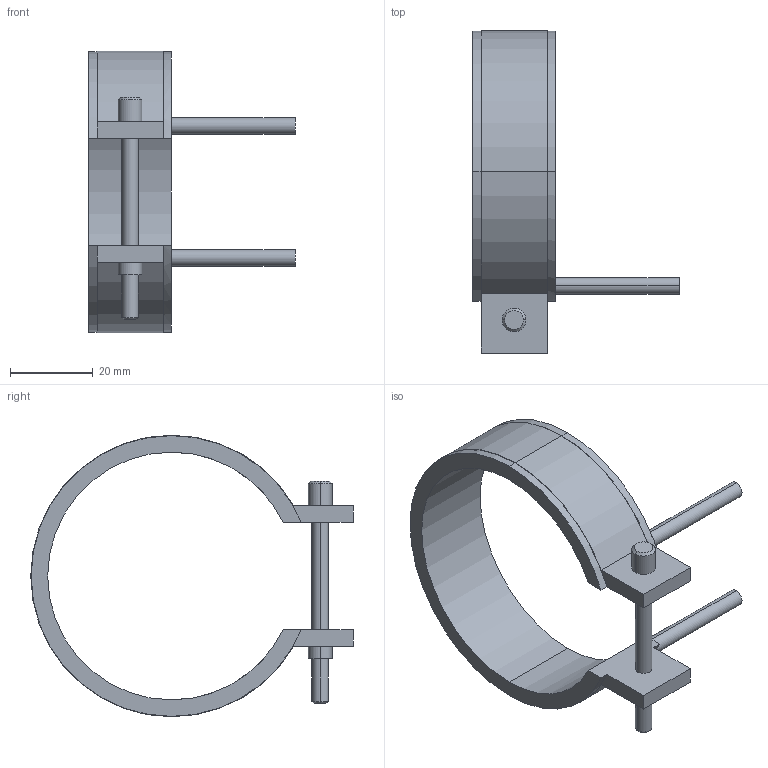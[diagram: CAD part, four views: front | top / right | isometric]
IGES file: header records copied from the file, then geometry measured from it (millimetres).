
Start section: START RECORD GO HERE.
Global section: file name: 14060020.igs; native system: DASSAULT SYSTEMES CATIA V5 R20 - www.3ds.com; preprocessor: CATIA Version 5 Release 20 ; author: Utente; organization: NB04-ASUS; date: 20210401.113244; units: millimetre
Bounding box: 50 x 78.1 x 68.2 mm (x, y, z)
Surface area: 10996.3 mm2 (no closed solid volume)
Topology: 0 solids, 0 shells, 45 faces, 232 edges, 232 vertices
Faces by surface type: revolution 28, plane 17
